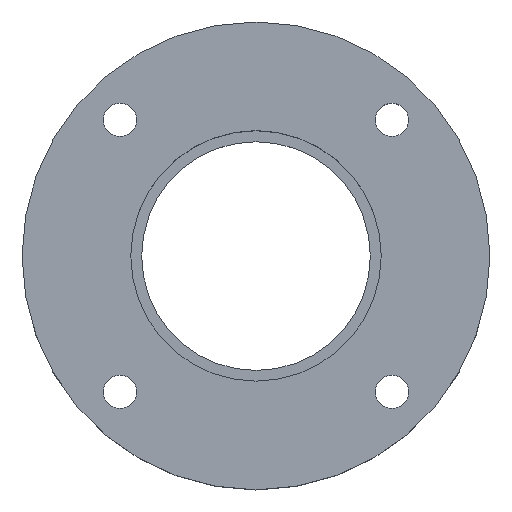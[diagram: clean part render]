
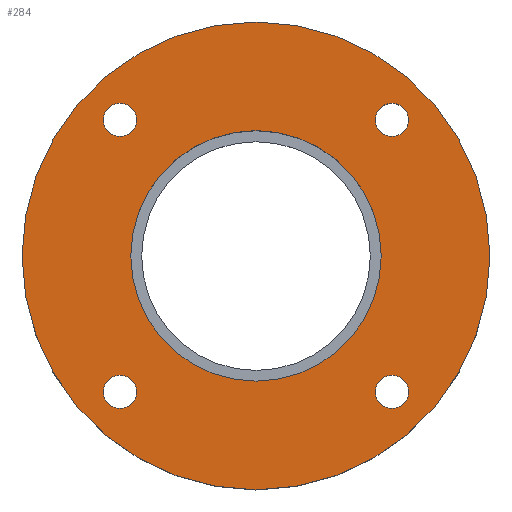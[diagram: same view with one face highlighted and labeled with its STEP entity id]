
A CAD part, top view. The second image highlights one B-rep face of the part: STEP entity #284.
In plain terms, the highlighted planar face has unit normal (0, 0, 1).
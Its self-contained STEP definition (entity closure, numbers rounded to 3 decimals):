
#15=FACE_BOUND('',#67,.T.);
#16=FACE_BOUND('',#68,.T.);
#17=FACE_BOUND('',#69,.T.);
#18=FACE_BOUND('',#70,.T.);
#19=FACE_BOUND('',#71,.T.);
#26=PLANE('',#328);
#48=FACE_OUTER_BOUND('',#66,.T.);
#66=EDGE_LOOP('',(#230));
#67=EDGE_LOOP('',(#231));
#68=EDGE_LOOP('',(#232));
#69=EDGE_LOOP('',(#233));
#70=EDGE_LOOP('',(#234));
#71=EDGE_LOOP('',(#235));
#129=CIRCLE('',#329,22.5);
#130=CIRCLE('',#330,1.6);
#131=CIRCLE('',#331,12.05);
#132=CIRCLE('',#332,1.6);
#133=CIRCLE('',#333,1.6);
#134=CIRCLE('',#334,1.6);
#151=VERTEX_POINT('',#487);
#152=VERTEX_POINT('',#489);
#153=VERTEX_POINT('',#491);
#154=VERTEX_POINT('',#493);
#155=VERTEX_POINT('',#495);
#156=VERTEX_POINT('',#497);
#181=EDGE_CURVE('',#151,#151,#129,.F.);
#182=EDGE_CURVE('',#152,#152,#130,.T.);
#183=EDGE_CURVE('',#153,#153,#131,.T.);
#184=EDGE_CURVE('',#154,#154,#132,.T.);
#185=EDGE_CURVE('',#155,#155,#133,.T.);
#186=EDGE_CURVE('',#156,#156,#134,.T.);
#230=ORIENTED_EDGE('',*,*,#181,.T.);
#231=ORIENTED_EDGE('',*,*,#182,.T.);
#232=ORIENTED_EDGE('',*,*,#183,.T.);
#233=ORIENTED_EDGE('',*,*,#184,.T.);
#234=ORIENTED_EDGE('',*,*,#185,.T.);
#235=ORIENTED_EDGE('',*,*,#186,.T.);
#284=ADVANCED_FACE('',(#48,#15,#16,#17,#18,#19),#26,.T.);
#328=AXIS2_PLACEMENT_3D('',#486,#398,#399);
#329=AXIS2_PLACEMENT_3D('',#488,#400,#401);
#330=AXIS2_PLACEMENT_3D('',#490,#402,#403);
#331=AXIS2_PLACEMENT_3D('',#492,#404,#405);
#332=AXIS2_PLACEMENT_3D('',#494,#406,#407);
#333=AXIS2_PLACEMENT_3D('',#496,#408,#409);
#334=AXIS2_PLACEMENT_3D('',#498,#410,#411);
#398=DIRECTION('center_axis',(0.,0.,1.));
#399=DIRECTION('ref_axis',(-1.,0.,0.));
#400=DIRECTION('center_axis',(0.,0.,-1.));
#401=DIRECTION('ref_axis',(1.,0.,0.));
#402=DIRECTION('center_axis',(0.,0.,-1.));
#403=DIRECTION('ref_axis',(0.,1.,0.));
#404=DIRECTION('center_axis',(0.,0.,-1.));
#405=DIRECTION('ref_axis',(-1.,0.,0.));
#406=DIRECTION('center_axis',(0.,0.,-1.));
#407=DIRECTION('ref_axis',(-0.707,-0.707,0.));
#408=DIRECTION('center_axis',(0.,0.,-1.));
#409=DIRECTION('ref_axis',(-0.707,-0.707,0.));
#410=DIRECTION('center_axis',(0.,0.,-1.));
#411=DIRECTION('ref_axis',(-0.707,0.707,0.));
#486=CARTESIAN_POINT('Origin',(0.,0.,31.));
#487=CARTESIAN_POINT('',(-22.5,0.,31.));
#488=CARTESIAN_POINT('Origin',(0.,0.,31.));
#489=CARTESIAN_POINT('',(13.081,11.481,31.));
#490=CARTESIAN_POINT('Origin',(13.081,13.081,31.));
#491=CARTESIAN_POINT('',(-12.05,0.,31.));
#492=CARTESIAN_POINT('Origin',(0.,0.,31.));
#493=CARTESIAN_POINT('',(-11.95,14.213,31.));
#494=CARTESIAN_POINT('Origin',(-13.081,13.081,31.));
#495=CARTESIAN_POINT('',(-11.95,-11.95,31.));
#496=CARTESIAN_POINT('Origin',(-13.081,-13.081,31.));
#497=CARTESIAN_POINT('',(14.213,-14.213,31.));
#498=CARTESIAN_POINT('Origin',(13.081,-13.081,31.));
